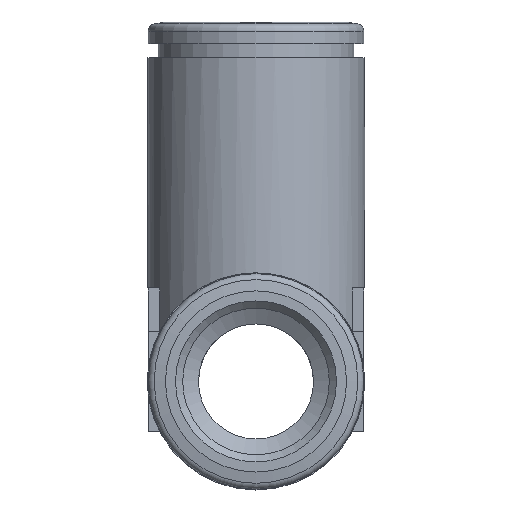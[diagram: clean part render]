
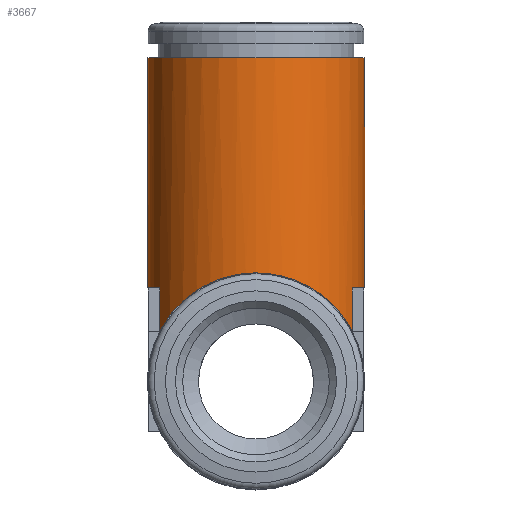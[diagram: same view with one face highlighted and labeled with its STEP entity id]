
A CAD part, left-side view. The second image highlights one B-rep face of the part: STEP entity #3667.
In plain terms, the highlighted cylindrical face has radius 7.55 mm (diameter 15.1 mm), a full revolution.
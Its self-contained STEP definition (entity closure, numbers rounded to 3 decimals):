
#1512=VECTOR('',#2771,1.);
#1514=VECTOR('',#2785,1.);
#1515=VECTOR('',#2792,1.);
#1516=VECTOR('',#2793,1.);
#1566=LINE('',#3202,#1512);
#1568=LINE('',#3213,#1514);
#1569=LINE('',#3220,#1515);
#1570=LINE('',#3221,#1516);
#1667=ELLIPSE('',#3450,10.677,7.55);
#1668=ELLIPSE('',#3457,10.677,7.55);
#1766=ORIENTED_EDGE('',*,*,#2212,.T.);
#1767=ORIENTED_EDGE('',*,*,#2213,.F.);
#1768=ORIENTED_EDGE('',*,*,#2214,.F.);
#1769=ORIENTED_EDGE('',*,*,#2208,.F.);
#1770=ORIENTED_EDGE('',*,*,#2210,.F.);
#1771=ORIENTED_EDGE('',*,*,#2178,.T.);
#1772=ORIENTED_EDGE('',*,*,#2215,.F.);
#1773=ORIENTED_EDGE('',*,*,#2216,.F.);
#1774=ORIENTED_EDGE('',*,*,#2217,.F.);
#1775=ORIENTED_EDGE('',*,*,#2218,.F.);
#1776=ORIENTED_EDGE('',*,*,#2219,.F.);
#1777=ORIENTED_EDGE('',*,*,#2168,.T.);
#1778=ORIENTED_EDGE('',*,*,#2220,.F.);
#1985=CIRCLE('',#3482,7.55);
#1986=CIRCLE('',#3487,7.55);
#1987=CIRCLE('',#3488,7.55);
#1988=CIRCLE('',#3489,7.55);
#1989=CIRCLE('',#3490,7.55);
#1990=CIRCLE('',#3491,7.55);
#1991=CIRCLE('',#3492,7.55);
#2056=VERTEX_POINT('',#3111);
#2057=VERTEX_POINT('',#3113);
#2066=VERTEX_POINT('',#3131);
#2067=VERTEX_POINT('',#3133);
#2082=VERTEX_POINT('',#3177);
#2083=VERTEX_POINT('',#3179);
#2089=VERTEX_POINT('',#3197);
#2090=VERTEX_POINT('',#3207);
#2091=VERTEX_POINT('',#3209);
#2092=VERTEX_POINT('',#3212);
#2093=VERTEX_POINT('',#3214);
#2094=VERTEX_POINT('',#3216);
#2095=VERTEX_POINT('',#3218);
#2168=EDGE_CURVE('',#2057,#2056,#1667,.T.);
#2178=EDGE_CURVE('',#2067,#2066,#1668,.T.);
#2208=EDGE_CURVE('',#2089,#2082,#1985,.T.);
#2210=EDGE_CURVE('',#2067,#2089,#1566,.T.);
#2212=EDGE_CURVE('',#2090,#2090,#1986,.T.);
#2213=EDGE_CURVE('',#2083,#2091,#1987,.T.);
#2214=EDGE_CURVE('',#2082,#2083,#1988,.T.);
#2215=EDGE_CURVE('',#2092,#2066,#1568,.T.);
#2216=EDGE_CURVE('',#2093,#2092,#1989,.T.);
#2217=EDGE_CURVE('',#2094,#2093,#1990,.T.);
#2218=EDGE_CURVE('',#2095,#2094,#1991,.T.);
#2219=EDGE_CURVE('',#2057,#2095,#1569,.T.);
#2220=EDGE_CURVE('',#2091,#2056,#1570,.T.);
#2340=EDGE_LOOP('',(#1766));
#2341=EDGE_LOOP('',(#1767,#1768,#1769,#1770,#1771,#1772,#1773,#1774,#1775,
#1776,#1777,#1778));
#2506=FACE_BOUND('',#2340,.T.);
#2507=FACE_BOUND('',#2341,.T.);
#2681=DIRECTION('',(-0.707,0.707,0.));
#2682=DIRECTION('',(0.707,0.707,0.));
#2698=DIRECTION('',(0.707,0.707,0.));
#2699=DIRECTION('',(-0.707,0.707,0.));
#2766=DIRECTION('',(0.,-1.,0.));
#2767=DIRECTION('',(-3.5,0.,-6.69));
#2771=DIRECTION('',(0.,3.,0.));
#2777=DIRECTION('',(0.,1.,0.));
#2778=DIRECTION('',(1.,0.,0.));
#2779=DIRECTION('',(0.,-1.,0.));
#2780=DIRECTION('',(7.55,0.,0.));
#2781=DIRECTION('',(0.,-1.,0.));
#2782=DIRECTION('',(0.867,0.,-7.5));
#2783=DIRECTION('',(0.,-1.,0.));
#2784=DIRECTION('',(-0.867,0.,-7.5));
#2785=DIRECTION('',(0.,-3.,0.));
#2786=DIRECTION('',(0.,-1.,0.));
#2787=DIRECTION('',(-0.867,0.,7.5));
#2788=DIRECTION('',(0.,-1.,0.));
#2789=DIRECTION('',(0.867,0.,7.5));
#2790=DIRECTION('',(0.,-1.,0.));
#2791=DIRECTION('',(3.5,0.,6.69));
#2792=DIRECTION('',(0.,3.,0.));
#2793=DIRECTION('',(0.,-3.,0.));
#3111=CARTESIAN_POINT('',(38.14,27.54,-6.69));
#3113=CARTESIAN_POINT('',(38.14,27.54,6.69));
#3114=CARTESIAN_POINT('',(34.64,24.04,0.));
#3131=CARTESIAN_POINT('',(31.14,27.54,6.69));
#3133=CARTESIAN_POINT('',(31.14,27.54,-6.69));
#3134=CARTESIAN_POINT('',(34.64,24.04,0.));
#3177=CARTESIAN_POINT('',(33.772,30.54,-7.5));
#3179=CARTESIAN_POINT('',(35.507,30.54,-7.5));
#3197=CARTESIAN_POINT('',(31.14,30.54,-6.69));
#3199=CARTESIAN_POINT('',(34.64,30.54,0.));
#3202=CARTESIAN_POINT('',(31.14,27.54,-6.69));
#3206=CARTESIAN_POINT('',(34.64,24.04,0.));
#3207=CARTESIAN_POINT('',(42.19,46.54,0.));
#3208=CARTESIAN_POINT('',(34.64,46.54,0.));
#3209=CARTESIAN_POINT('',(38.14,30.54,-6.69));
#3210=CARTESIAN_POINT('',(34.64,30.54,0.));
#3211=CARTESIAN_POINT('',(34.64,30.54,0.));
#3212=CARTESIAN_POINT('',(31.14,30.54,6.69));
#3213=CARTESIAN_POINT('',(31.14,30.54,6.69));
#3214=CARTESIAN_POINT('',(33.772,30.54,7.5));
#3215=CARTESIAN_POINT('',(34.64,30.54,0.));
#3216=CARTESIAN_POINT('',(35.507,30.54,7.5));
#3217=CARTESIAN_POINT('',(34.64,30.54,0.));
#3218=CARTESIAN_POINT('',(38.14,30.54,6.69));
#3219=CARTESIAN_POINT('',(34.64,30.54,0.));
#3220=CARTESIAN_POINT('',(38.14,27.54,6.69));
#3221=CARTESIAN_POINT('',(38.14,30.54,-6.69));
#3450=AXIS2_PLACEMENT_3D('',#3114,#2681,#2682);
#3457=AXIS2_PLACEMENT_3D('',#3134,#2698,#2699);
#3482=AXIS2_PLACEMENT_3D('',#3199,#2766,#2767);
#3486=AXIS2_PLACEMENT_3D('',#3206,#2777,#2778);
#3487=AXIS2_PLACEMENT_3D('',#3208,#2779,#2780);
#3488=AXIS2_PLACEMENT_3D('',#3210,#2781,#2782);
#3489=AXIS2_PLACEMENT_3D('',#3211,#2783,#2784);
#3490=AXIS2_PLACEMENT_3D('',#3215,#2786,#2787);
#3491=AXIS2_PLACEMENT_3D('',#3217,#2788,#2789);
#3492=AXIS2_PLACEMENT_3D('',#3219,#2790,#2791);
#3623=CYLINDRICAL_SURFACE('',#3486,7.55);
#3667=ADVANCED_FACE('',(#2506,#2507),#3623,.T.);
